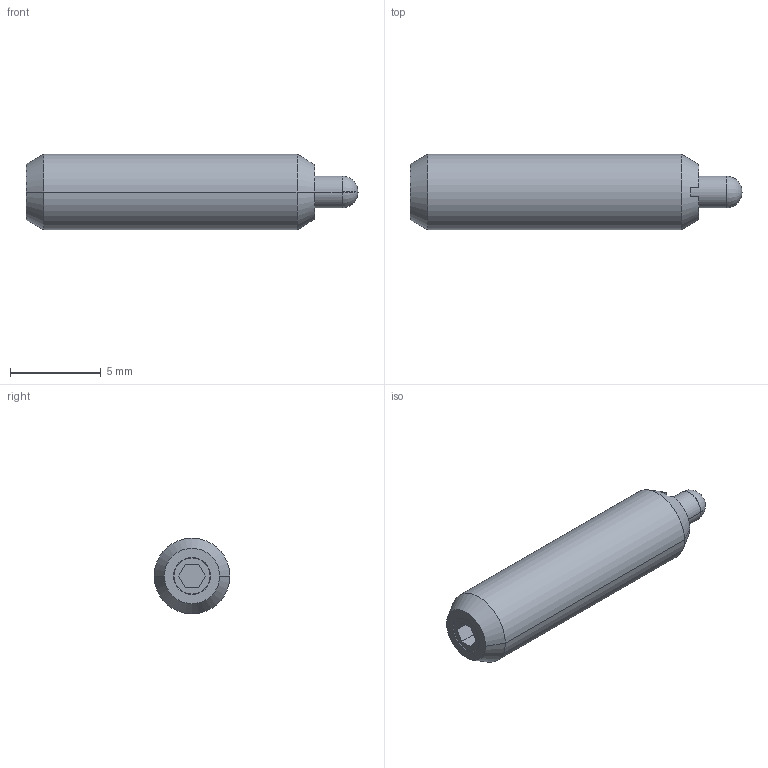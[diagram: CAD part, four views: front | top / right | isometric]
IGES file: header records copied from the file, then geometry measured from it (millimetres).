
Start section:  PTC IGES file: s50-3D.igs
Global section: file name: s50-3D.igs; native system: Pro/ENGINEER by Parametric Technology Corporation; preprocessor: 2002350; author: chant; organization: Unknown; date: 061031.115937; units: inch
Bounding box: 18.26 x 4.17 x 4.17 mm (x, y, z)
Surface area: 261.7 mm2 (no closed solid volume)
Topology: 0 solids, 0 shells, 32 faces, 222 edges, 280 vertices
Faces by surface type: bspline 16, revolution 16
